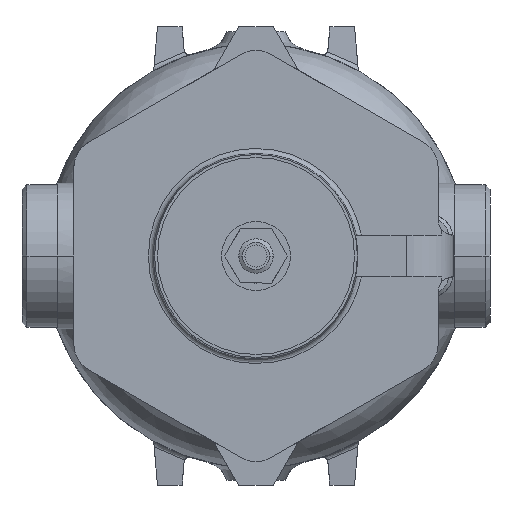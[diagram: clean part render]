
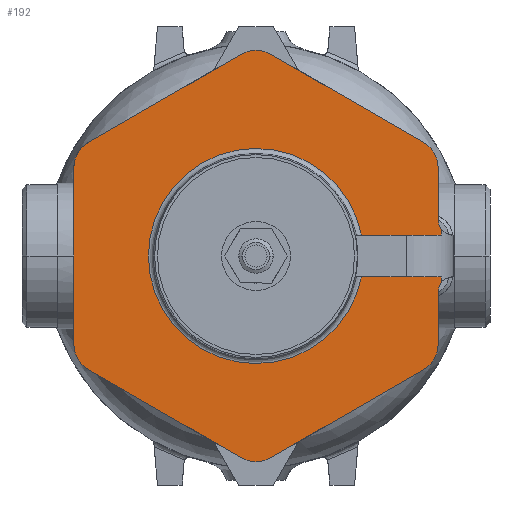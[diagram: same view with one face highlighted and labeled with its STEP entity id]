
A CAD part, front view. The second image highlights one B-rep face of the part: STEP entity #192.
In plain terms, the highlighted planar face has unit normal (0, -1, 0) as drawn and (0, 0, -1) by its records, which use the part's own axes.
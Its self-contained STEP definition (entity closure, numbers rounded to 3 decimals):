
#192=ADVANCED_FACE('',(#1446),#1445,.T.);
#1445=PLANE('',#3442);
#1446=FACE_OUTER_BOUND('',#3443,.T.);
#3439=CARTESIAN_POINT('',(896.942,-95.4,-588.377));
#3440=DIRECTION('',(0.,0.,-1.));
#3441=DIRECTION('',(-1.,0.,0.));
#3442=AXIS2_PLACEMENT_3D('',#3439,#3440,#3441);
#3443=EDGE_LOOP('',(#4625,#4626,#4627,#4628,#4629,#4630,#4631,#4632,#4633,#4634,#4635,#4636,#4637,#4638,#4639,#4640,#4641,#4642,#4643,#4644));
#4625=ORIENTED_EDGE('',*,*,#5378,.F.);
#4626=ORIENTED_EDGE('',*,*,#5375,.T.);
#4627=ORIENTED_EDGE('',*,*,#5299,.T.);
#4628=ORIENTED_EDGE('',*,*,#5305,.T.);
#4629=ORIENTED_EDGE('',*,*,#5383,.F.);
#4630=ORIENTED_EDGE('',*,*,#5418,.T.);
#4631=ORIENTED_EDGE('',*,*,#5419,.F.);
#4632=ORIENTED_EDGE('',*,*,#5410,.T.);
#4633=ORIENTED_EDGE('',*,*,#5408,.F.);
#4634=ORIENTED_EDGE('',*,*,#5406,.T.);
#4635=ORIENTED_EDGE('',*,*,#5404,.F.);
#4636=ORIENTED_EDGE('',*,*,#5402,.T.);
#4637=ORIENTED_EDGE('',*,*,#5400,.F.);
#4638=ORIENTED_EDGE('',*,*,#5398,.T.);
#4639=ORIENTED_EDGE('',*,*,#5396,.F.);
#4640=ORIENTED_EDGE('',*,*,#5393,.T.);
#4641=ORIENTED_EDGE('',*,*,#5387,.F.);
#4642=ORIENTED_EDGE('',*,*,#5417,.T.);
#4643=ORIENTED_EDGE('',*,*,#5293,.F.);
#4644=ORIENTED_EDGE('',*,*,#5070,.F.);
#5070=EDGE_CURVE('',#5739,#5740,#5741,.T.);
#5293=EDGE_CURVE('',#5740,#7248,#7249,.T.);
#5299=EDGE_CURVE('',#7290,#7283,#7291,.T.);
#5305=EDGE_CURVE('',#7283,#7324,#7331,.T.);
#5375=EDGE_CURVE('',#7795,#7290,#7796,.T.);
#5378=EDGE_CURVE('',#7795,#5739,#7815,.T.);
#5383=EDGE_CURVE('',#7840,#7324,#7847,.T.);
#5387=EDGE_CURVE('',#7866,#7859,#7873,.T.);
#5393=EDGE_CURVE('',#7904,#7859,#7911,.T.);
#5396=EDGE_CURVE('',#7904,#7917,#7930,.T.);
#5398=EDGE_CURVE('',#7936,#7917,#7943,.T.);
#5400=EDGE_CURVE('',#7936,#7949,#7956,.T.);
#5402=EDGE_CURVE('',#7962,#7949,#7969,.T.);
#5404=EDGE_CURVE('',#7962,#7975,#7982,.T.);
#5406=EDGE_CURVE('',#7988,#7975,#7995,.T.);
#5408=EDGE_CURVE('',#7988,#8001,#8008,.T.);
#5410=EDGE_CURVE('',#8014,#8001,#8021,.T.);
#5417=EDGE_CURVE('',#7866,#7248,#8066,.T.);
#5418=EDGE_CURVE('',#7840,#8072,#8073,.T.);
#5419=EDGE_CURVE('',#8014,#8072,#8079,.T.);
#5739=VERTEX_POINT('',#9009);
#5740=VERTEX_POINT('',#9010);
#5741=LINE('',#9011,#9012);
#7248=VERTEX_POINT('',#10280);
#7249=LINE('',#10281,#10282);
#7283=VERTEX_POINT('',#10317);
#7290=VERTEX_POINT('',#10336);
#7291=LINE('',#10337,#10338);
#7324=VERTEX_POINT('',#10357);
#7331=CIRCLE('',#10364,6.);
#7795=VERTEX_POINT('',#10737);
#7796=LINE('',#10738,#10739);
#7815=CIRCLE('',#10765,43.664);
#7840=VERTEX_POINT('',#10778);
#7847=LINE('',#10782,#10783);
#7859=VERTEX_POINT('',#10788);
#7866=VERTEX_POINT('',#10792);
#7873=LINE('',#10796,#10797);
#7904=VERTEX_POINT('',#10813);
#7911=CIRCLE('',#10820,12.);
#7917=VERTEX_POINT('',#10821);
#7930=LINE('',#10828,#10829);
#7936=VERTEX_POINT('',#10831);
#7943=CIRCLE('',#10838,12.);
#7949=VERTEX_POINT('',#10839);
#7956=LINE('',#10843,#10844);
#7962=VERTEX_POINT('',#10846);
#7969=CIRCLE('',#10853,12.);
#7975=VERTEX_POINT('',#10854);
#7982=LINE('',#10858,#10859);
#7988=VERTEX_POINT('',#10861);
#7995=CIRCLE('',#10868,12.);
#8001=VERTEX_POINT('',#10869);
#8008=LINE('',#10873,#10874);
#8014=VERTEX_POINT('',#10876);
#8021=CIRCLE('',#10883,12.);
#8066=CIRCLE('',#10913,6.);
#8072=VERTEX_POINT('',#10914);
#8073=CIRCLE('',#10918,12.);
#8079=LINE('',#10919,#10920);
#9009=CARTESIAN_POINT('',(854.461,8.5,-588.377));
#9010=CARTESIAN_POINT('',(886.942,8.5,-588.377));
#9011=CARTESIAN_POINT('',(854.461,8.5,-588.377));
#9012=VECTOR('',#9013,32.481);
#9013=DIRECTION('',(1.,0.,0.));
#10280=CARTESIAN_POINT('',(886.942,10.708,-588.377));
#10281=CARTESIAN_POINT('',(886.942,8.5,-588.377));
#10282=VECTOR('',#10283,2.208);
#10283=DIRECTION('',(0.,1.,0.));
#10317=CARTESIAN_POINT('',(886.942,-10.708,-588.377));
#10336=CARTESIAN_POINT('',(886.942,-8.5,-588.377));
#10337=CARTESIAN_POINT('',(886.942,-8.5,-588.377));
#10338=VECTOR('',#10339,2.208);
#10339=DIRECTION('',(0.,-1.,0.));
#10357=CARTESIAN_POINT('',(885.592,-14.5,-588.377));
#10361=CARTESIAN_POINT('',(891.592,-14.5,-588.377));
#10362=DIRECTION('',(0.,0.,1.));
#10363=DIRECTION('',(1.,0.,0.));
#10364=AXIS2_PLACEMENT_3D('',#10361,#10362,#10363);
#10737=CARTESIAN_POINT('',(854.461,-8.5,-588.377));
#10738=CARTESIAN_POINT('',(854.461,-8.5,-588.377));
#10739=VECTOR('',#10740,32.481);
#10740=DIRECTION('',(1.,0.,0.));
#10762=CARTESIAN_POINT('',(811.633,0.,-588.377));
#10763=DIRECTION('',(0.,0.,-1.));
#10764=DIRECTION('',(1.,0.,0.));
#10765=AXIS2_PLACEMENT_3D('',#10762,#10763,#10764);
#10778=CARTESIAN_POINT('',(885.592,-35.772,-588.377));
#10782=CARTESIAN_POINT('',(885.592,-35.772,-588.377));
#10783=VECTOR('',#10784,21.272);
#10784=DIRECTION('',(0.,1.,0.));
#10788=CARTESIAN_POINT('',(885.592,35.772,-588.377));
#10792=CARTESIAN_POINT('',(885.592,14.5,-588.377));
#10796=CARTESIAN_POINT('',(885.592,14.5,-588.377));
#10797=VECTOR('',#10798,21.272);
#10798=DIRECTION('',(0.,1.,0.));
#10813=CARTESIAN_POINT('',(879.592,46.164,-588.377));
#10817=CARTESIAN_POINT('',(873.592,35.772,-588.377));
#10818=DIRECTION('',(0.,0.,-1.));
#10819=DIRECTION('',(1.,0.,0.));
#10820=AXIS2_PLACEMENT_3D('',#10817,#10818,#10819);
#10821=CARTESIAN_POINT('',(817.633,81.936,-588.377));
#10828=CARTESIAN_POINT('',(879.592,46.164,-588.377));
#10829=VECTOR('',#10830,71.544);
#10830=DIRECTION('',(-0.866,0.5,0.));
#10831=CARTESIAN_POINT('',(805.633,81.936,-588.377));
#10835=CARTESIAN_POINT('',(811.633,71.544,-588.377));
#10836=DIRECTION('',(0.,0.,-1.));
#10837=DIRECTION('',(1.,0.,0.));
#10838=AXIS2_PLACEMENT_3D('',#10835,#10836,#10837);
#10839=CARTESIAN_POINT('',(743.674,46.164,-588.377));
#10843=CARTESIAN_POINT('',(805.633,81.936,-588.377));
#10844=VECTOR('',#10845,71.544);
#10845=DIRECTION('',(-0.866,-0.5,0.));
#10846=CARTESIAN_POINT('',(737.674,35.772,-588.377));
#10850=CARTESIAN_POINT('',(749.674,35.772,-588.377));
#10851=DIRECTION('',(0.,0.,-1.));
#10852=DIRECTION('',(1.,0.,0.));
#10853=AXIS2_PLACEMENT_3D('',#10850,#10851,#10852);
#10854=CARTESIAN_POINT('',(737.674,-35.772,-588.377));
#10858=CARTESIAN_POINT('',(737.674,35.772,-588.377));
#10859=VECTOR('',#10860,71.544);
#10860=DIRECTION('',(0.,-1.,0.));
#10861=CARTESIAN_POINT('',(743.674,-46.164,-588.377));
#10865=CARTESIAN_POINT('',(749.674,-35.772,-588.377));
#10866=DIRECTION('',(0.,0.,-1.));
#10867=DIRECTION('',(1.,0.,0.));
#10868=AXIS2_PLACEMENT_3D('',#10865,#10866,#10867);
#10869=CARTESIAN_POINT('',(805.633,-81.936,-588.377));
#10873=CARTESIAN_POINT('',(743.674,-46.164,-588.377));
#10874=VECTOR('',#10875,71.544);
#10875=DIRECTION('',(0.866,-0.5,0.));
#10876=CARTESIAN_POINT('',(817.633,-81.936,-588.377));
#10880=CARTESIAN_POINT('',(811.633,-71.544,-588.377));
#10881=DIRECTION('',(0.,0.,-1.));
#10882=DIRECTION('',(1.,0.,0.));
#10883=AXIS2_PLACEMENT_3D('',#10880,#10881,#10882);
#10910=CARTESIAN_POINT('',(891.592,14.5,-588.377));
#10911=DIRECTION('',(0.,0.,1.));
#10912=DIRECTION('',(1.,0.,0.));
#10913=AXIS2_PLACEMENT_3D('',#10910,#10911,#10912);
#10914=CARTESIAN_POINT('',(879.592,-46.164,-588.377));
#10915=CARTESIAN_POINT('',(873.592,-35.772,-588.377));
#10916=DIRECTION('',(0.,0.,-1.));
#10917=DIRECTION('',(1.,0.,0.));
#10918=AXIS2_PLACEMENT_3D('',#10915,#10916,#10917);
#10919=CARTESIAN_POINT('',(817.633,-81.936,-588.377));
#10920=VECTOR('',#10921,71.544);
#10921=DIRECTION('',(0.866,0.5,0.));
